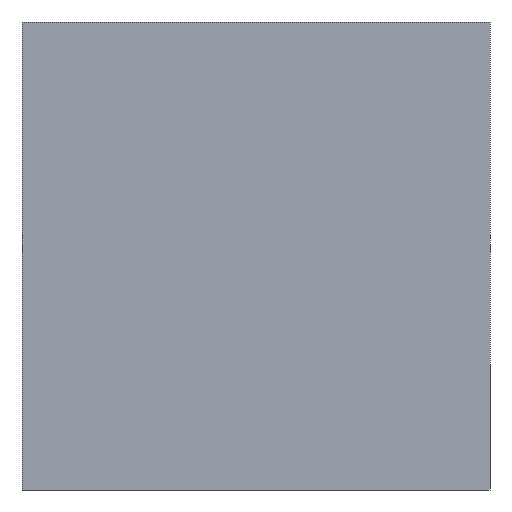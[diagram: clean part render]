
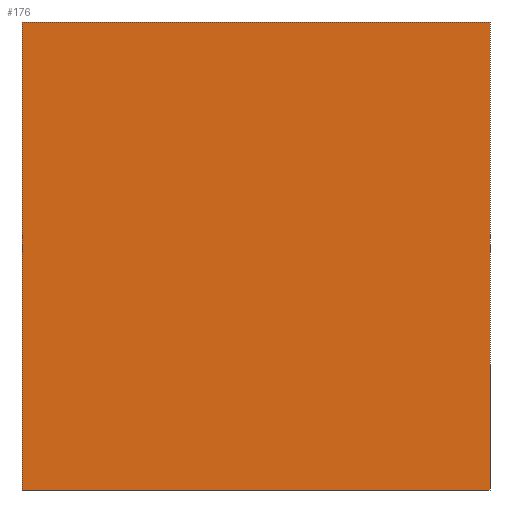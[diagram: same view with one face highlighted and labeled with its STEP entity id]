
A CAD part, front view. The second image highlights one B-rep face of the part: STEP entity #176.
In plain terms, the highlighted planar face has unit normal (0, -1, 0).
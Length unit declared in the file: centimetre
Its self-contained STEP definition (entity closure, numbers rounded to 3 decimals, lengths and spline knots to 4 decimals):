
#1 = FACE_OUTER_BOUND ( 'NONE', #563, .T. ) ;
#6 = DIRECTION ( 'NONE',  ( 0., 0., -1. ) ) ;
#22 = VECTOR ( 'NONE', #6, 100. ) ;
#50 = DIRECTION ( 'NONE',  ( 1., 0., 0. ) ) ;
#69 = ORIENTED_EDGE ( 'NONE', *, *, #411, .F. ) ;
#116 = LINE ( 'NONE', #599, #669 ) ;
#126 = VERTEX_POINT ( 'NONE', #548 ) ;
#131 = CARTESIAN_POINT ( 'NONE',  ( 1000., 0., 0. ) ) ;
#144 = EDGE_CURVE ( 'NONE', #126, #500, #275, .T. ) ;
#159 = DIRECTION ( 'NONE',  ( 0., 0., 1. ) ) ;
#166 = VECTOR ( 'NONE', #50, 100. ) ;
#176 = ADVANCED_FACE ( 'NONE', ( #1 ), #427, .F. ) ;
#190 = EDGE_CURVE ( 'NONE', #258, #231, #320, .T. ) ;
#211 = CARTESIAN_POINT ( 'NONE',  ( 1000., 0., 1000. ) ) ;
#231 = VERTEX_POINT ( 'NONE', #131 ) ;
#233 = CARTESIAN_POINT ( 'NONE',  ( 0., 0., 0. ) ) ;
#250 = VECTOR ( 'NONE', #423, 100. ) ;
#258 = VERTEX_POINT ( 'NONE', #586 ) ;
#275 = LINE ( 'NONE', #616, #22 ) ;
#320 = LINE ( 'NONE', #211, #250 ) ;
#343 = ORIENTED_EDGE ( 'NONE', *, *, #190, .F. ) ;
#375 = CARTESIAN_POINT ( 'NONE',  ( 0., 0., 1000. ) ) ;
#411 = EDGE_CURVE ( 'NONE', #126, #258, #116, .T. ) ;
#423 = DIRECTION ( 'NONE',  ( 0., 0., -1. ) ) ;
#427 = PLANE ( 'NONE',  #512 ) ;
#432 = EDGE_CURVE ( 'NONE', #500, #231, #437, .T. ) ;
#437 = LINE ( 'NONE', #544, #166 ) ;
#441 = ORIENTED_EDGE ( 'NONE', *, *, #432, .T. ) ;
#500 = VERTEX_POINT ( 'NONE', #233 ) ;
#512 = AXIS2_PLACEMENT_3D ( 'NONE', #375, #653, #159 ) ;
#544 = CARTESIAN_POINT ( 'NONE',  ( 0., 0., 0. ) ) ;
#548 = CARTESIAN_POINT ( 'NONE',  ( 0., 0., 1000. ) ) ;
#563 = EDGE_LOOP ( 'NONE', ( #441, #343, #69, #656 ) ) ;
#586 = CARTESIAN_POINT ( 'NONE',  ( 1000., 0., 1000. ) ) ;
#599 = CARTESIAN_POINT ( 'NONE',  ( 0., 0., 1000. ) ) ;
#616 = CARTESIAN_POINT ( 'NONE',  ( 0., 0., 1000. ) ) ;
#653 = DIRECTION ( 'NONE',  ( 0., 1., 0. ) ) ;
#655 = DIRECTION ( 'NONE',  ( 1., 0., 0. ) ) ;
#656 = ORIENTED_EDGE ( 'NONE', *, *, #144, .T. ) ;
#669 = VECTOR ( 'NONE', #655, 100. ) ;
